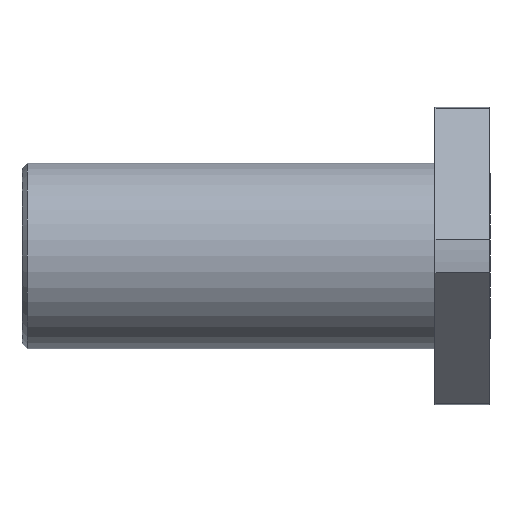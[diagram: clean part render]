
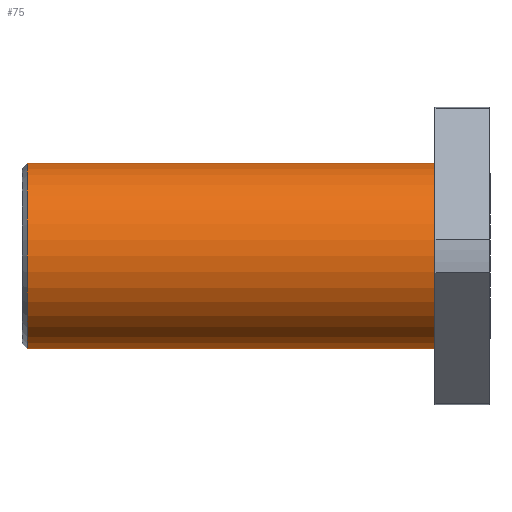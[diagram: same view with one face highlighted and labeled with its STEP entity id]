
A CAD part, front view. The second image highlights one B-rep face of the part: STEP entity #75.
In plain terms, the highlighted cylindrical face has radius 30 mm (diameter 60 mm), a full revolution.
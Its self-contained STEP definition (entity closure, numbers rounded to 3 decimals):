
#75=ADVANCED_FACE('',(#110,#111),#112,.T.);
#110=FACE_OUTER_BOUND('',#204,.T.);
#111=FACE_OUTER_BOUND('',#205,.T.);
#112=CYLINDRICAL_SURFACE('',#206,30.0);
#204=EDGE_LOOP('',(#298));
#205=EDGE_LOOP('',(#299));
#206=AXIS2_PLACEMENT_3D('',#300,#301,#302);
#298=ORIENTED_EDGE('',*,*,#538,.F.);
#299=ORIENTED_EDGE('',*,*,#539,.F.);
#300=CARTESIAN_POINT('',(-18.0,0.,0.0));
#301=DIRECTION('',(1.0,-0.0,-0.0));
#302=DIRECTION('',(0.0,0.0,1.0));
#538=EDGE_CURVE('',#607,#607,#608,.T.);
#539=EDGE_CURVE('',#609,#609,#610,.T.);
#607=VERTEX_POINT('',#729);
#608=CIRCLE('',#730,30.0);
#609=VERTEX_POINT('',#731);
#610=CIRCLE('',#732,30.0);
#729=CARTESIAN_POINT('',(-18.0,0.,-30.0));
#730=AXIS2_PLACEMENT_3D('',#915,#916,#917);
#731=CARTESIAN_POINT('',(-149.25,0.,30.0));
#732=AXIS2_PLACEMENT_3D('',#918,#919,#920);
#915=CARTESIAN_POINT('',(-18.0,0.,0.0));
#916=DIRECTION('',(1.0,0.0,0.0));
#917=DIRECTION('',(0.0,0.0,-1.0));
#918=CARTESIAN_POINT('',(-149.25,0.,0.0));
#919=DIRECTION('',(-1.0,0.0,0.0));
#920=DIRECTION('',(0.0,0.0,1.0));
